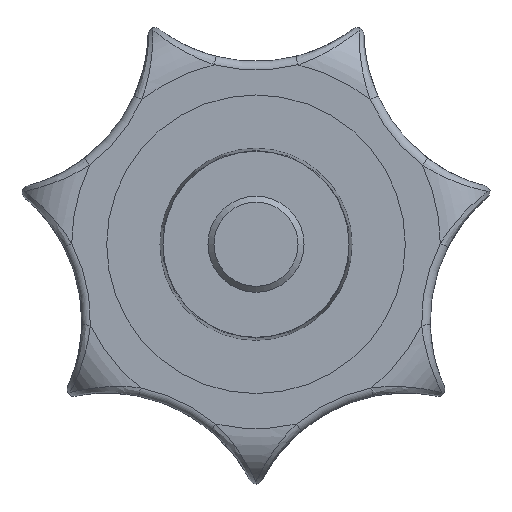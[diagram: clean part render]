
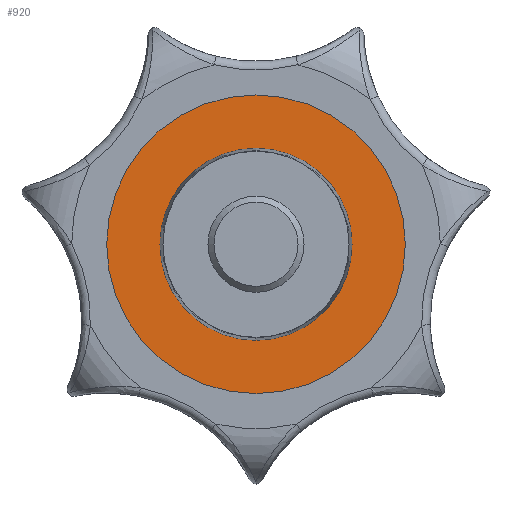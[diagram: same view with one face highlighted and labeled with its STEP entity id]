
A CAD part, front view. The second image highlights one B-rep face of the part: STEP entity #920.
In plain terms, the highlighted planar face has unit normal (0, -1, 0).
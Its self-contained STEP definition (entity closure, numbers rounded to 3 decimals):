
#58=FACE_BOUND('',#259,.T.);
#61=PLANE('',#1047);
#198=FACE_OUTER_BOUND('',#258,.T.);
#258=EDGE_LOOP('',(#852,#853));
#259=EDGE_LOOP('',(#854,#855));
#275=CIRCLE('',#951,8.);
#276=CIRCLE('',#952,8.);
#281=CIRCLE('',#958,12.436);
#282=CIRCLE('',#959,12.436);
#345=VERTEX_POINT('',#1287);
#346=VERTEX_POINT('',#1288);
#351=VERTEX_POINT('',#1301);
#352=VERTEX_POINT('',#1303);
#437=EDGE_CURVE('',#345,#346,#275,.T.);
#438=EDGE_CURVE('',#346,#345,#276,.T.);
#445=EDGE_CURVE('',#351,#352,#281,.T.);
#446=EDGE_CURVE('',#352,#351,#282,.T.);
#852=ORIENTED_EDGE('',*,*,#446,.F.);
#853=ORIENTED_EDGE('',*,*,#445,.F.);
#854=ORIENTED_EDGE('',*,*,#437,.T.);
#855=ORIENTED_EDGE('',*,*,#438,.T.);
#920=ADVANCED_FACE('',(#198,#58),#61,.T.);
#951=AXIS2_PLACEMENT_3D('',#1289,#1071,#1072);
#952=AXIS2_PLACEMENT_3D('',#1290,#1073,#1074);
#958=AXIS2_PLACEMENT_3D('',#1304,#1087,#1088);
#959=AXIS2_PLACEMENT_3D('',#1305,#1089,#1090);
#1047=AXIS2_PLACEMENT_3D('',#7395,#1265,#1266);
#1071=DIRECTION('center_axis',(0.,1.,0.));
#1072=DIRECTION('ref_axis',(0.,0.,1.));
#1073=DIRECTION('center_axis',(0.,1.,0.));
#1074=DIRECTION('ref_axis',(0.,0.,1.));
#1087=DIRECTION('center_axis',(0.,1.,0.));
#1088=DIRECTION('ref_axis',(0.,0.,1.));
#1089=DIRECTION('center_axis',(0.,1.,0.));
#1090=DIRECTION('ref_axis',(0.,0.,1.));
#1265=DIRECTION('center_axis',(0.,-1.,0.));
#1266=DIRECTION('ref_axis',(0.,0.,-1.));
#1287=CARTESIAN_POINT('',(0.,-6.713,8.));
#1288=CARTESIAN_POINT('',(0.,-6.713,-8.));
#1289=CARTESIAN_POINT('Origin',(0.,-6.713,0.));
#1290=CARTESIAN_POINT('Origin',(0.,-6.713,0.));
#1301=CARTESIAN_POINT('',(0.,-6.713,-12.436));
#1303=CARTESIAN_POINT('',(0.,-6.713,12.436));
#1304=CARTESIAN_POINT('Origin',(0.,-6.713,0.));
#1305=CARTESIAN_POINT('Origin',(0.,-6.713,0.));
#7395=CARTESIAN_POINT('Origin',(12.436,-6.713,0.));
